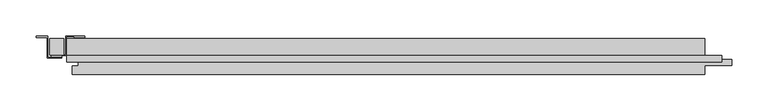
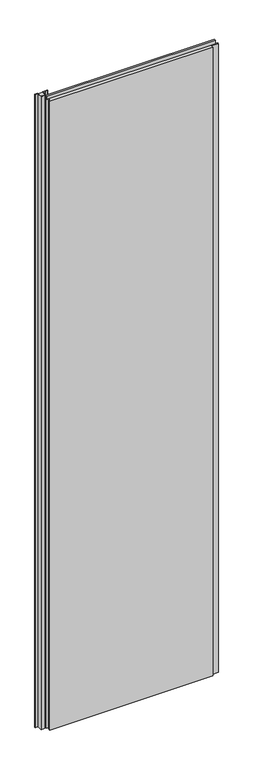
"""IFC4 building model written with IfcOpenShell, lengths in millimetres: plate geometry, Trimo_Qbiss Screen_Normal Panel-VERTICAL : HR - B."""

from ifc_helpers import new_model, si_unit, frame, origin, place, context, project, spatial, polyline, outline, extrude, source, transform, mapped, element, save


def plate_1c614da3(model_context):
    return source(origin(), model_context, "Body", "SweptSolid", [
        extrude(outline(polyline([(-436.8, 126.0), (-436.8, 103.2), (-455.8, 103.2), (-455.8, 126.0), (-436.8, 126.0)])), frame((0.0, 0.0, 12.5), z_axis=(0.0, 0.0, 1.0), x_axis=(1.0, 0.0, 0.0)), (0.0, 0.0, 1.0), 3600.0),
        extrude(outline(polyline([(-407.0, 127.6), (-422.0, 127.6), (-422.0, 128.4), (-407.8, 128.4), (-407.8, 129.2), (-433.0, 129.2), (-433.0, 102.4), (-453.2, 102.4), (-453.2, 101.6), (-439.0, 101.6), (-439.0, 100.8), (-454.0, 100.8), (-454.0, 103.2), (-433.8, 103.2), (-433.8, 130.0), (-407.0, 130.0), (-407.0, 127.6)])), frame((0.0, 0.0, 12.5), z_axis=(0.0, 0.0, 1.0), x_axis=(1.0, 0.0, 0.0)), (0.0, 0.0, 1.0), 3600.0),
        extrude(outline(polyline([(-439.0, 100.0), (-439.0, 99.2), (-459.6, 99.2), (-459.6, 129.2), (-474.2, 129.2), (-474.2, 128.4), (-460.0, 128.4), (-460.0, 127.6), (-475.0, 127.6), (-475.0, 130.0), (-458.8, 130.0), (-458.8, 100.0), (-439.0, 100.0)])), frame((0.0, 0.0, 12.5), z_axis=(0.0, 0.0, 1.0), x_axis=(1.0, 0.0, 0.0)), (0.0, 0.0, 1.0), 3600.0),
        extrude(outline(polyline([(455.0, 97.0), (455.0, 102.6), (476.0, 102.6), (476.0, 97.0), (455.0, 97.0)])), frame((0.0, 0.0, 12.5), z_axis=(0.0, 0.0, 1.0), x_axis=(1.0, 0.0, 0.0)), (0.0, 0.0, 1.0), 3575.0),
        extrude(outline(polyline([(-432.0, 93.9), (-432.0, 102.6), (477.0, 102.6), (477.0, 93.9), (-432.0, 93.9)])), frame((0.0, 0.0, 3590.5), z_axis=(0.0, 0.0, 1.0), x_axis=(1.0, 0.0, 0.0)), (0.0, 0.0, 1.0), 19.0),
        extrude(outline(polyline([(454.0, 97.0), (491.5, 97.0), (491.5, 89.0), (454.0, 89.0), (454.0, 76.0), (-425.0, 76.0), (-425.0, 88.0), (-416.5, 88.0), (-416.5, 98.0), (-432.0, 98.0), (-432.0, 126.0), (454.0, 126.0), (454.0, 97.0)])), frame((0.0, 0.0, 12.5), z_axis=(0.0, 0.0, 1.0), x_axis=(1.0, 0.0, 0.0)), (0.0, 0.0, 1.0), 3575.0),
    ])


if __name__ == "__main__":
    model = new_model("IFC4")
    model_context = context("Model", 3, world=origin())
    ifc_project = project(units=[si_unit("LENGTHUNIT", "METRE", prefix="MILLI")], contexts=[model_context])
    site = spatial("IfcSite", under=ifc_project)
    building = spatial("IfcBuilding", under=site)
    placement = place(None, origin())
    plate_shape = plate_1c614da3(model_context)
    element("IfcPlate", 1, ObjectType="Trimo_Qbiss Screen_Normal Panel-VERTICAL : HR - B", at=placement, inside=building, context=model_context, shape_type="MappedRepresentation", body=[
        mapped(plate_shape, transform((0.0, 0.0, 0.0), x_axis=(1.0, 0.0, 0.0), y_axis=(0.0, 1.0, 0.0), z_axis=(0.0, 0.0, 1.0))),
    ])
    save(model, "model.ifc")
